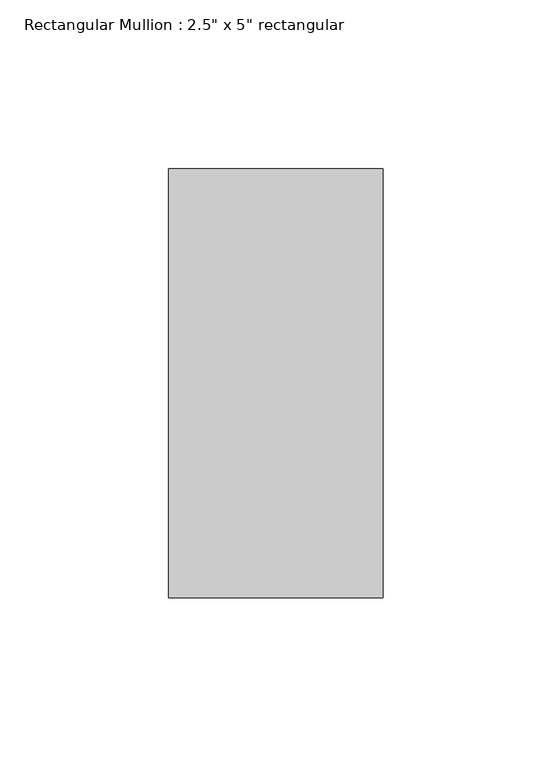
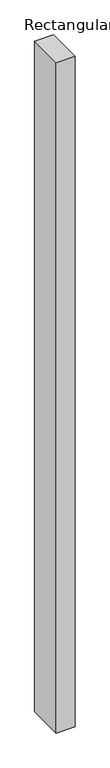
"""IFC4 building model written with IfcOpenShell, lengths in millimetres: member geometry."""

from ifc_helpers import new_model, si_unit, frame, origin, place, context, project, spatial, polyline, outline, extrude, source, transform, mapped, element, save


def member_bd7755a3(model_context):
    return source(origin(), model_context, "Body", "SweptSolid", [
        extrude(outline(polyline([(31.75, 63.5), (31.75, -63.5), (-31.75, -63.5), (-31.75, 63.5), (31.75, 63.5)])), frame((0.0, 0.0, -2408.5400328), z_axis=(0.0, 0.0, 1.0), x_axis=(1.0, 0.0, 0.0)), (0.0, 0.0, 1.0), 2408.5400328),
    ])


if __name__ == "__main__":
    model = new_model("IFC4")
    model_context = context("Model", 3, world=origin())
    ifc_project = project(units=[si_unit("LENGTHUNIT", "METRE", prefix="MILLI")], contexts=[model_context])
    site = spatial("IfcSite", under=ifc_project)
    building = spatial("IfcBuilding", under=site)
    placement = place(None, origin())
    member_shape = member_bd7755a3(model_context)
    element("IfcMember", 1, ObjectType="Rectangular Mullion : 2.5\" x 5\" rectangular", at=placement, inside=building, context=model_context, shape_type="MappedRepresentation", body=[
        mapped(member_shape, transform((0.0, 0.0, 0.0), x_axis=(1.0, 0.0, 0.0), y_axis=(0.0, 1.0, 0.0), z_axis=(0.0, 0.0, 1.0))),
    ])
    save(model, "model.ifc")
